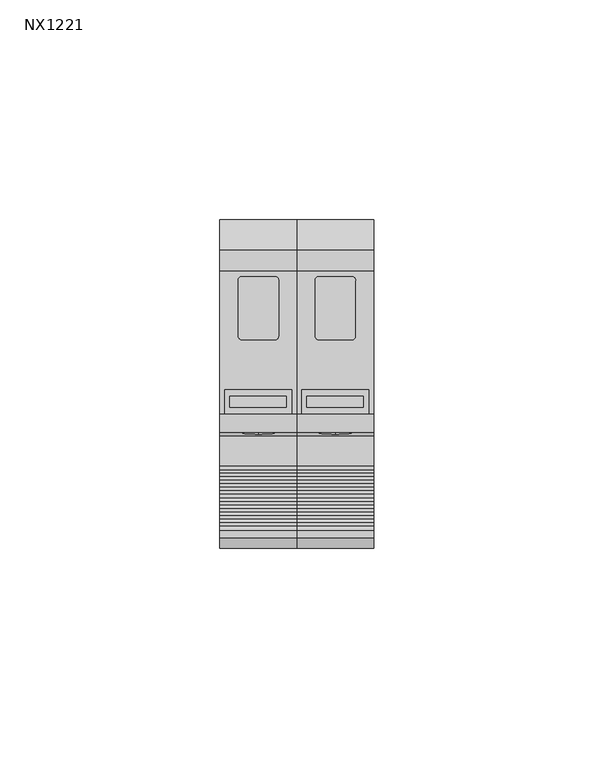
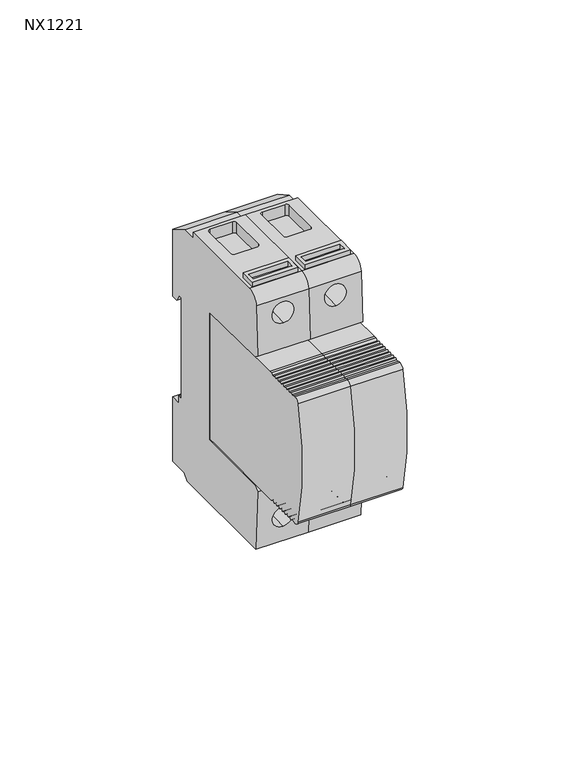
"""IFC4 building model written with IfcOpenShell, lengths in millimetres: proxy geometry, КНС_УЗИП_классI+II_DKC : NX1221."""

from ifc_helpers import new_model, si_unit, point, frame, frame_2d, origin, place, context, project, spatial, polyline, circle_curve, ellipse_curve, trimmed, segment, composite_curve, outline, extrude, source, transform, mapped, element, save
from ifc_brep_helpers import plane_surface, cylinder_surface, revolved_surface, advanced_brep


def nx1221_e5589962(model_context):
    return source(origin(), model_context, "Body", "SolidModel", [
        extrude(outline(polyline([(1.1422597, -33.6922597), (16.3577403, -33.6922597), (16.3577403, -39.0669933), (1.1422597, -39.0669933), (1.1422597, -33.6922597)]), holes=[polyline([(15.147402, -35.102599), (2.251655, -35.102599), (2.2596285, -37.6473987), (15.1473955, -37.6473987), (15.147402, -35.102599)])]), frame((0.0, 0.0, 44.688194), z_axis=(0.0, 0.0, 1.0), x_axis=(1.0, 0.0, 0.0)), (0.0, 0.0, 1.0), 1.65),
        advanced_brep(
        [(17.5, 1.2, 17.438194), (17.5, 2.7207259, 14.938194), (17.5, 5.0, 14.938194), (17.5, 5.0, 38.7044771), (17.5, -1.7972569, 42.6288752), (17.5, -6.7, 42.5860896), (17.5, -6.6806922, 44.688194), (17.5, -39.1559657, 44.688194), (17.5, -43.2612234, 40.8404952), (17.5, -44.1501875, 23.5687496), (17.5, -42.5975423, 22.4685618), (17.5, -16.1999972, 22.2381939), (17.5, -16.1999972, -22.861806), (17.5, -42.5975423, -23.0921739), (17.5, -44.149783, -24.192075), (17.5, -43.0654073, -45.2646007), (17.5, -3.2721098, -45.2646007), (17.5, -1.6937526, -43.2533905), (17.5, 5.0, -43.311806), (17.5, 5.0, -20.561806), (17.5, 1.5, -20.561806), (17.5, 1.5, -18.061806), (17.5, 0.0, -18.061806), (17.5, 0.0, 17.438194), (0.0, 1.2, 17.438194), (0.0, 0.0, 17.438194), (0.0, 0.0, -18.061806), (0.0, 1.5, -18.061806), (0.0, 1.5, -20.561806), (0.0, 5.0, -20.561806), (0.0, 5.0, -43.311806), (0.0, -1.6937526, -43.2533905), (0.0, -3.2721098, -45.2646007), (0.0, -43.0654073, -45.2646007), (0.0, -44.149783, -24.192075), (0.0, -42.5975423, -23.0921739), (0.0, -16.1999972, -22.861806), (0.0, -16.1999972, 22.2381939), (0.0, -42.5975423, 22.4685618), (0.0, -44.1501875, 23.5687496), (0.0, -43.2612234, 40.8404952), (0.0, -39.1559657, 44.688194), (0.0, -6.6806922, 44.688194), (0.0, -6.7, 42.5860896), (0.0, -1.7972569, 42.6288752), (0.0, 5.0, 38.7044771), (0.0, 5.0, 14.938194), (0.0, 2.7207259, 14.938194), (2.251655, -35.102599, 44.688194), (15.147402, -35.102599, 44.688194), (15.1473955, -37.6473987, 44.688194), (2.2596285, -37.6473987, 44.688194), (4.1464467, -8.7059631, 44.688194), (4.9559631, -7.8964466, 44.688194), (12.543988, -7.8964466, 44.688194), (13.3535534, -8.9059631, 44.688194), (13.3535534, -21.4940369, 44.688194), (12.5440369, -22.3035534, 44.688194), (4.9559631, -22.3035534, 44.688194), (4.1464467, -21.2943613, 44.688194), (8.75, -43.7122623, 32.0772292), (8.75, -43.3399564, 39.3107864), (8.75, -43.3425137, -39.8796286), (8.75, -43.7053358, -32.8289577), (15.147402, -35.102599, 40.688194), (2.251655, -35.102599, 40.688194), (2.2596285, -37.6473987, 40.688194), (15.1473955, -37.6473987, 40.688194), (8.75, -32.0563306, 32.6770343), (8.75, -32.241464, 36.2747068), (8.75, -32.4265974, 39.8723793), (8.75, -28.3623348, -39.1087603), (8.75, -28.5437458, -35.5834249), (8.75, -28.7251568, -32.0580894), (4.9559631, -7.8964466, 40.688194), (4.1464467, -8.7059631, 40.688194), (4.1464467, -21.2943613, 40.688194), (4.9559631, -22.3035534, 40.688194), (12.5440369, -22.3035534, 40.688194), (13.3535534, -21.4940369, 40.688194), (13.3535534, -8.9059631, 40.688194), (12.543988, -7.8964466, 40.688194)],
        [
            (0, 1),
            (1, 2),
            (2, 3),
            (3, 4),
            (4, 5),
            (5, 6),
            (6, 7),
            (7, 8, circle_curve(frame((17.5, -39.1559657, 40.574316), z_axis=(1.0, 0.0, 0.0), x_axis=(0.0, -1.0, 0.0)), 4.113878)),
            (8, 9),
            (9, 10),
            (10, 11),
            (11, 12),
            (12, 13),
            (13, 14),
            (14, 15),
            (15, 16),
            (16, 17),
            (17, 18),
            (18, 19),
            (19, 20),
            (20, 21),
            (21, 22),
            (22, 23),
            (23, 0),
            (24, 25),
            (25, 26),
            (26, 27),
            (27, 28),
            (28, 29),
            (29, 30),
            (30, 31),
            (31, 32),
            (32, 33),
            (33, 34),
            (34, 35),
            (35, 36),
            (36, 37),
            (37, 38),
            (38, 39),
            (39, 40),
            (40, 41, circle_curve(frame((0.0, -39.1559657, 40.574316), z_axis=(-1.0, 0.0, 0.0), x_axis=(0.0, -1.0, 0.0)), 4.113878)),
            (41, 42),
            (42, 43),
            (43, 44),
            (44, 45),
            (45, 46),
            (46, 47),
            (47, 24),
            (0, 24),
            (47, 1),
            (46, 2),
            (45, 3),
            (44, 4),
            (43, 5),
            (42, 6),
            (41, 7),
            (48, 49),
            (49, 50),
            (50, 51),
            (51, 48),
            (52, 53, circle_curve(frame((4.9559631, -8.7059631, 44.688194), z_axis=(0.0, 0.0, -1.0), x_axis=(1.0, 0.0, 0.0)), 0.8095165)),
            (53, 54),
            (54, 55, circle_curve(frame((12.543988, -8.7258138, 44.688194), z_axis=(0.0, 0.0, -1.0), x_axis=(1.0, 0.0, 0.0)), 0.8293672)),
            (55, 56),
            (56, 57, circle_curve(frame((12.5440369, -21.4940369, 44.688194), z_axis=(0.0, 0.0, -1.0), x_axis=(1.0, 0.0, 0.0)), 0.8095165)),
            (57, 58),
            (58, 59, circle_curve(frame((5.1802649, -21.2943613, 44.688194), z_axis=(0.0, 0.0, -1.0), x_axis=(1.0, 0.0, 0.0)), 1.0338181)),
            (59, 52),
            (40, 8),
            (39, 9),
            (60, 61, ellipse_curve(frame((8.75, -43.5261093, 35.6940078), z_axis=(0.0, 0.9986780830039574, -0.05140123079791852), x_axis=(0.0, -0.0514012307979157, -0.9986780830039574)), 3.621566, 3.6024328)),
            (61, 60, ellipse_curve(frame((8.75, -43.5261093, 35.6940078), z_axis=(0.0, 0.9986780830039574, -0.05140123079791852), x_axis=(0.0, -0.0514012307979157, -0.9986780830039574)), 3.621566, 3.6024328)),
            (38, 10),
            (37, 11),
            (36, 12),
            (35, 13),
            (34, 14),
            (33, 15),
            (62, 63, circle_curve(frame((8.75, -43.5239247, -36.3542932), z_axis=(0.0, 0.9986785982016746, 0.051391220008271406), x_axis=(0.0, -0.05139122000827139, 0.9986785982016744)), 3.53)),
            (63, 62, circle_curve(frame((8.75, -43.5239247, -36.3542932), z_axis=(0.0, 0.9986785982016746, 0.051391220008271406), x_axis=(0.0, -0.05139122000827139, 0.9986785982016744)), 3.53)),
            (32, 16),
            (31, 17),
            (30, 18),
            (29, 19),
            (28, 20),
            (27, 21),
            (26, 22),
            (25, 23),
            (64, 65),
            (65, 66),
            (66, 67),
            (67, 64),
            (64, 49),
            (48, 65),
            (51, 66),
            (50, 67),
            (68, 69),
            (69, 70),
            (70, 68, circle_curve(frame((8.75, -32.241464, 36.2747068), z_axis=(0.0, -0.9986785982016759, -0.051391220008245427), x_axis=(0.0, -0.05139122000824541, 0.9986785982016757)), 3.6024328)),
            (68, 70, circle_curve(frame((8.75, -32.241464, 36.2747068), z_axis=(0.0, -0.9986785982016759, -0.051391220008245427), x_axis=(0.0, -0.05139122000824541, 0.9986785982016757)), 3.6024328)),
            (70, 61),
            (60, 68),
            (71, 72),
            (72, 73),
            (73, 71, circle_curve(frame((8.75, -28.5437458, -35.5834249), z_axis=(0.0, -0.9986785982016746, -0.051391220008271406), x_axis=(0.0, -0.05139122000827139, 0.9986785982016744)), 3.53)),
            (71, 73, circle_curve(frame((8.75, -28.5437458, -35.5834249), z_axis=(0.0, -0.9986785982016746, -0.051391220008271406), x_axis=(0.0, -0.05139122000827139, 0.9986785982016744)), 3.53)),
            (73, 63),
            (62, 71),
            (74, 75, circle_curve(frame((4.9559631, -8.7059631, 40.688194), z_axis=(0.0, 0.0, 1.0), x_axis=(1.0, 0.0, 0.0)), 0.8095165)),
            (75, 76),
            (76, 77, circle_curve(frame((5.1802649, -21.2943613, 40.688194), z_axis=(0.0, 0.0, 1.0), x_axis=(1.0, 0.0, 0.0)), 1.0338181)),
            (77, 78),
            (78, 79, circle_curve(frame((12.5440369, -21.4940369, 40.688194), z_axis=(0.0, 0.0, 1.0), x_axis=(1.0, 0.0, 0.0)), 0.8095165)),
            (79, 80),
            (80, 81, circle_curve(frame((12.543988, -8.7258138, 40.688194), z_axis=(0.0, 0.0, 1.0), x_axis=(1.0, 0.0, 0.0)), 0.8293672)),
            (81, 74),
            (74, 53),
            (52, 75),
            (59, 76),
            (58, 77),
            (57, 78),
            (56, 79),
            (55, 80),
            (54, 81),
        ],
        [
            plane_surface(frame((17.5, 1.2, 17.438194), z_axis=(1.0, 0.0, 0.0), x_axis=(0.0, 0.5196942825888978, -0.8543523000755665))),
            plane_surface(frame((0.0, 1.2, 17.438194), z_axis=(-1.0, 0.0, 0.0), x_axis=(0.0, -0.5196942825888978, 0.8543523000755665))),
            plane_surface(frame((17.5, 1.2, 17.438194), z_axis=(0.0, -0.8543523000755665, -0.5196942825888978), x_axis=(-1.0, 0.0, 0.0))),
            plane_surface(frame((17.5, 2.7207259, 14.938194), z_axis=(0.0, 0.0, -1.0), x_axis=(-1.0, 0.0, 0.0))),
            plane_surface(frame((17.5, 5.0, 14.938194), z_axis=(0.0, 1.0, 0.0), x_axis=(-1.0, 0.0, 0.0))),
            plane_surface(frame((17.5, 5.0, 38.7044771), z_axis=(0.0, 0.49999999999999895, 0.8660254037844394), x_axis=(-1.0, 0.0, 0.0))),
            plane_surface(frame((17.5, -1.7972569, 42.6288752), z_axis=(0.0, -0.008726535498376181, 0.9999619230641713), x_axis=(-1.0, 0.0, 0.0))),
            plane_surface(frame((17.5, -6.7, 42.5860896), z_axis=(0.0, 0.9999578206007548, -0.009184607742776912), x_axis=(-1.0, 0.0, 0.0))),
            plane_surface(frame((17.5, -6.6806922, 44.688194), z_axis=(0.0, 0.0, 1.0), x_axis=(-1.0, 0.0, 0.0))),
            cylinder_surface(frame((0.0, -39.1559657, 40.574316), z_axis=(1.0, 0.0, 0.0), x_axis=(0.0, -1.0, 0.0)), 4.113878),
            plane_surface(frame((17.5, -43.2612234, 40.8404952), z_axis=(0.0, -0.9986780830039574, 0.05140123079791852), x_axis=(-1.0, 0.0, 0.0))),
            plane_surface(frame((17.5, -44.1501875, 23.5687496), z_axis=(0.0, -0.5781564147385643, -0.8159259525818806), x_axis=(-1.0, 0.0, 0.0))),
            plane_surface(frame((17.5, -42.5975423, 22.4685618), z_axis=(0.0, -0.00872653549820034, -0.9999619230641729), x_axis=(-1.0, 0.0, 0.0))),
            plane_surface(frame((17.5, -16.1999972, 22.2381939), z_axis=(0.0, -1.0, 0.0), x_axis=(-1.0, 0.0, 0.0))),
            plane_surface(frame((17.5, -16.1999972, -22.861806), z_axis=(0.0, -0.008726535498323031, 0.9999619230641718), x_axis=(-1.0, 0.0, 0.0))),
            plane_surface(frame((17.5, -42.5975423, -23.0921739), z_axis=(0.0, -0.5781564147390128, 0.8159259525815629), x_axis=(-1.0, 0.0, 0.0))),
            plane_surface(frame((17.5, -44.149783, -24.192075), z_axis=(0.0, -0.9986785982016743, -0.05139122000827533), x_axis=(-1.0, 0.0, 0.0))),
            plane_surface(frame((17.5, -43.0654073, -45.2646007), z_axis=(0.0, 0.0, -1.0), x_axis=(-1.0, 0.0, 0.0))),
            plane_surface(frame((17.5, -3.2721098, -45.2646007), z_axis=(0.0, 0.7866753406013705, -0.6173669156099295), x_axis=(-1.0, 0.0, 0.0))),
            plane_surface(frame((17.5, -1.6937526, -43.2533905), z_axis=(0.0, -0.008726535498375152, -0.9999619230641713), x_axis=(-1.0, 0.0, 0.0))),
            plane_surface(frame((17.5, 5.0, -43.311806), z_axis=(0.0, 1.0, 0.0), x_axis=(-1.0, 0.0, 0.0))),
            plane_surface(frame((17.5, 5.0, -20.561806), z_axis=(0.0, 0.0, 1.0), x_axis=(-1.0, 0.0, 0.0))),
            plane_surface(frame((17.5, 1.5, -20.561806), z_axis=(0.0, 1.0, 0.0), x_axis=(-1.0, 0.0, 0.0))),
            plane_surface(frame((17.5, 1.5, -18.061806), z_axis=(0.0, 0.0, 1.0), x_axis=(-1.0, 0.0, 0.0))),
            plane_surface(frame((17.5, 0.0, -18.061806), z_axis=(0.0, 1.0, 0.0), x_axis=(-1.0, 0.0, 0.0))),
            plane_surface(frame((17.5, 0.0, 17.438194), z_axis=(0.0, 0.0, -1.0), x_axis=(-1.0, 0.0, 0.0))),
            plane_surface(frame((2.5525837, -35.102599, 40.688194), z_axis=(0.0, 0.0, 1.0), x_axis=(1.0, 0.0, 0.0))),
            plane_surface(frame((15.147402, -35.102599, 51.9501742), z_axis=(0.0, -1.0, 0.0), x_axis=(0.0, 0.0, -1.0))),
            plane_surface(frame((2.251655, -35.102599, 51.9501742), z_axis=(0.9999950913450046, 0.003133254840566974, 0.0), x_axis=(0.0, 0.0, -1.0))),
            plane_surface(frame((2.2596285, -37.6473987, 51.9501742), z_axis=(0.0, 1.0, 0.0), x_axis=(0.0, 0.0, -1.0))),
            plane_surface(frame((15.1473955, -37.6473987, 51.9501742), z_axis=(-0.9999999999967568, 2.546850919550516e-06, 0.0), x_axis=(0.0, 0.0, -1.0))),
            plane_surface(frame((8.75, -32.241464, 36.2747068), z_axis=(0.0, -0.9986785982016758, -0.05139122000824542), x_axis=(0.0, -0.05139122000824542, 0.9986785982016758))),
            revolved_surface(polyline([(8.75, -44.082529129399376, 39.27257420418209), (8.75, -32.42659740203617, 39.872379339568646)]), (8.75, -32.241464, 36.2747068), (0.0, -0.9986785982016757, -0.05139122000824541)),
            plane_surface(frame((8.75, -28.5437458, -35.5834249), z_axis=(0.0, -0.9986785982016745, -0.0513912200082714), x_axis=(0.0, -0.0513912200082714, 0.9986785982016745))),
            revolved_surface(polyline([(8.75, -43.70533579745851, -32.828957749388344), (8.75, -28.725156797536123, -32.058089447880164)]), (8.75, -28.5437458, -35.5834249), (0.0, -0.9986785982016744, -0.05139122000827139)),
            plane_surface(frame((5.7654796, -8.7059631, 40.688194), z_axis=(0.0, 0.0, 1.0), x_axis=(0.0, -1.0, 0.0))),
            revolved_surface(polyline([(5.7654796, -8.7059631, 44.688194), (5.7654796, -8.7059631, 40.688194)]), (4.9559631, -8.7059631, 40.688194), (0.0, 0.0, 1.0)),
            plane_surface(frame((4.1464467, -8.7059631, 44.688194), z_axis=(1.0, 0.0, 0.0), x_axis=(0.0, 0.0, -1.0))),
            revolved_surface(polyline([(6.2140830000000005, -21.2943613, 44.688194), (6.2140830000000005, -21.2943613, 40.688194)]), (5.1802649, -21.2943613, 40.688194), (0.0, 0.0, 1.0)),
            plane_surface(frame((4.9559631, -22.3035534, 44.688194), z_axis=(0.0, 1.0, 0.0), x_axis=(0.0, 0.0, -1.0))),
            revolved_surface(polyline([(13.3535534, -21.4940369, 44.688194), (13.3535534, -21.4940369, 40.688194)]), (12.5440369, -21.4940369, 40.688194), (0.0, 0.0, 1.0)),
            plane_surface(frame((13.3535534, -21.4940369, 44.688194), z_axis=(-1.0, 0.0, 0.0), x_axis=(0.0, 0.0, -1.0))),
            revolved_surface(polyline([(13.3733552, -8.7258138, 44.688194), (13.3733552, -8.7258138, 40.688194)]), (12.543988, -8.7258138, 40.688194), (0.0, 0.0, 1.0)),
            plane_surface(frame((12.543988, -7.8964466, 44.688194), z_axis=(1.8937241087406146e-10, -1.0, 0.0), x_axis=(0.0, 0.0, -1.0))),
        ],
        [
            (0, [[1, 2, 3, 4, 5, 6, 7, 8, 9, 10, 11, 12, 13, 14, 15, 16, 17, 18, 19, 20, 21, 22, 23, 24]]),
            (1, [[25, 26, 27, 28, 29, 30, 31, 32, 33, 34, 35, 36, 37, 38, 39, 40, 41, 42, 43, 44, 45, 46, 47, 48]]),
            (2, [[-1, 49, -48, 50]]),
            (3, [[-2, -50, -47, 51]]),
            (4, [[-3, -51, -46, 52]]),
            (5, [[-4, -52, -45, 53]]),
            (6, [[-5, -53, -44, 54]]),
            (7, [[-6, -54, -43, 55]]),
            (8, [[-7, -55, -42, 56], [57, 58, 59, 60], [61, 62, 63, 64, 65, 66, 67, 68]]),
            (9, [[-8, -56, -41, 69]]),
            (10, [[-9, -69, -40, 70], [71, 72]]),
            (11, [[-10, -70, -39, 73]]),
            (12, [[-11, -73, -38, 74]]),
            (13, [[-12, -74, -37, 75]]),
            (14, [[-13, -75, -36, 76]]),
            (15, [[-14, -76, -35, 77]]),
            (16, [[-15, -77, -34, 78], [79, 80]]),
            (17, [[-16, -78, -33, 81]]),
            (18, [[-17, -81, -32, 82]]),
            (19, [[-18, -82, -31, 83]]),
            (20, [[-19, -83, -30, 84]]),
            (21, [[-20, -84, -29, 85]]),
            (22, [[-21, -85, -28, 86]]),
            (23, [[-22, -86, -27, 87]]),
            (24, [[-23, -87, -26, 88]]),
            (25, [[-24, -88, -25, -49]]),
            (26, [[89, 90, 91, 92]]),
            (27, [[-89, 93, -57, 94]]),
            (28, [[-90, -94, -60, 95]]),
            (29, [[-91, -95, -59, 96]]),
            (30, [[-92, -96, -58, -93]]),
            (31, [[97, 98, 99]]),
            (31, [[-97, 100, -98]]),
            (32, [[-99, 101, -71, 102]]),
            (32, [[-100, -102, -72, -101]]),
            (33, [[103, 104, 105]]),
            (33, [[-103, 106, -104]]),
            (34, [[-105, 107, -79, 108]]),
            (34, [[-106, -108, -80, -107]]),
            (35, [[109, 110, 111, 112, 113, 114, 115, 116]]),
            (36, [[-109, 117, -61, 118]]),
            (37, [[-110, -118, -68, 119]]),
            (38, [[-111, -119, -67, 120]]),
            (39, [[-112, -120, -66, 121]]),
            (40, [[-113, -121, -65, 122]]),
            (41, [[-114, -122, -64, 123]]),
            (42, [[-115, -123, -63, 124]]),
            (43, [[-116, -124, -62, -117]]),
        ],
    ),
        extrude(outline(composite_curve([segment(polyline([(-20.9549972, 22.238194), (-16.1999972, 22.238194), (-16.1999972, -22.238194), (-20.9549972, -22.238194), (-50.9549972, -22.5), (-51.8409232, -22.5)]), True, "CONTINUOUS"), segment(trimmed(circle_curve(frame_2d((-51.8159676, -21.704458)), 0.7959333), [point((-51.8409232, -22.5))], [point((-52.5549972, -22.0))], False, "CARTESIAN"), True, "CONTINUOUS"), segment(polyline([(-52.5549972, -22.0), (-53.3549972, -22.0)]), True, "CONTINUOUS"), segment(trimmed(circle_curve(frame_2d((-53.7549972, -22.0)), 0.4), [point((-53.3549972, -22.0))], [point((-54.1549972, -22.0))], False, "CARTESIAN"), True, "CONTINUOUS"), segment(polyline([(-54.1549972, -22.0), (-54.9549972, -22.0)]), True, "CONTINUOUS"), segment(trimmed(circle_curve(frame_2d((-55.3549972, -22.0)), 0.4), [point((-54.9549972, -22.0))], [point((-55.7549972, -22.0))], False, "CARTESIAN"), True, "CONTINUOUS"), segment(polyline([(-55.7549972, -22.0), (-56.5549972, -22.0)]), True, "CONTINUOUS"), segment(trimmed(circle_curve(frame_2d((-56.9549972, -22.0)), 0.4), [point((-56.5549972, -22.0))], [point((-57.3549972, -22.0))], False, "CARTESIAN"), True, "CONTINUOUS"), segment(polyline([(-57.3549972, -22.0), (-58.1549972, -22.0)]), True, "CONTINUOUS"), segment(trimmed(circle_curve(frame_2d((-58.5549972, -22.0)), 0.4), [point((-58.1549972, -22.0))], [point((-58.9549972, -22.0))], False, "CARTESIAN"), True, "CONTINUOUS"), segment(polyline([(-58.9549972, -22.0), (-59.7549972, -22.0)]), True, "CONTINUOUS"), segment(trimmed(circle_curve(frame_2d((-60.1549972, -22.0)), 0.4), [point((-59.7549972, -22.0))], [point((-60.5549972, -22.0))], False, "CARTESIAN"), True, "CONTINUOUS"), segment(polyline([(-60.5549972, -22.0), (-61.3549972, -22.0)]), True, "CONTINUOUS"), segment(trimmed(circle_curve(frame_2d((-61.7549972, -22.0)), 0.4), [point((-61.3549972, -22.0))], [point((-62.1549972, -22.0))], False, "CARTESIAN"), True, "CONTINUOUS"), segment(polyline([(-62.1549972, -22.0), (-62.9549972, -22.0)]), True, "CONTINUOUS"), segment(trimmed(circle_curve(frame_2d((-63.3549972, -22.0)), 0.4), [point((-62.9549972, -22.0))], [point((-63.7549972, -22.0))], False, "CARTESIAN"), True, "CONTINUOUS"), segment(polyline([(-63.7549972, -22.0), (-64.5549972, -22.0)]), True, "CONTINUOUS"), segment(trimmed(circle_curve(frame_2d((-65.6169646, -20.2703757)), 2.0296243), [point((-64.5549972, -22.0))], [point((-65.6169646, -22.3))], False, "CARTESIAN"), True, "CONTINUOUS"), segment(trimmed(circle_curve(frame_2d((-65.6408544, -20.5391615)), 1.7610005), [point((-65.6169646, -22.3))], [point((-67.3551679, -20.9419667))], False, "CARTESIAN"), True, "CONTINUOUS"), segment(trimmed(circle_curve(frame_2d((15.9165985, 0.0)), 85.8647369), [point((-67.3551679, -20.9419667))], [point((-67.3551679, 20.9419667))], False, "CARTESIAN"), True, "CONTINUOUS"), segment(trimmed(circle_curve(frame_2d((-65.6408544, 20.5391615)), 1.7610005), [point((-67.3551679, 20.9419667))], [point((-65.6169646, 22.3))], False, "CARTESIAN"), True, "CONTINUOUS"), segment(trimmed(circle_curve(frame_2d((-65.6169646, 20.2703757)), 2.0296243), [point((-65.6169646, 22.3))], [point((-64.5549972, 22.0))], False, "CARTESIAN"), True, "CONTINUOUS"), segment(polyline([(-64.5549972, 22.0), (-63.7549972, 22.0)]), True, "CONTINUOUS"), segment(trimmed(circle_curve(frame_2d((-63.3549972, 22.0)), 0.4), [point((-63.7549972, 22.0))], [point((-62.9549972, 22.0))], False, "CARTESIAN"), True, "CONTINUOUS"), segment(polyline([(-62.9549972, 22.0), (-62.1549972, 22.0)]), True, "CONTINUOUS"), segment(trimmed(circle_curve(frame_2d((-61.7549972, 22.0)), 0.4), [point((-62.1549972, 22.0))], [point((-61.3549972, 22.0))], False, "CARTESIAN"), True, "CONTINUOUS"), segment(polyline([(-61.3549972, 22.0), (-60.5549972, 22.0)]), True, "CONTINUOUS"), segment(trimmed(circle_curve(frame_2d((-60.1549972, 22.0)), 0.4), [point((-60.5549972, 22.0))], [point((-59.7549972, 22.0))], False, "CARTESIAN"), True, "CONTINUOUS"), segment(polyline([(-59.7549972, 22.0), (-58.9549972, 22.0)]), True, "CONTINUOUS"), segment(trimmed(circle_curve(frame_2d((-58.5549972, 22.0)), 0.4), [point((-58.9549972, 22.0))], [point((-58.1549972, 22.0))], False, "CARTESIAN"), True, "CONTINUOUS"), segment(polyline([(-58.1549972, 22.0), (-57.3549972, 22.0)]), True, "CONTINUOUS"), segment(trimmed(circle_curve(frame_2d((-56.9549972, 22.0)), 0.4), [point((-57.3549972, 22.0))], [point((-56.5549972, 22.0))], False, "CARTESIAN"), True, "CONTINUOUS"), segment(polyline([(-56.5549972, 22.0), (-55.7549972, 22.0)]), True, "CONTINUOUS"), segment(trimmed(circle_curve(frame_2d((-55.3549972, 22.0)), 0.4), [point((-55.7549972, 22.0))], [point((-54.9549972, 22.0))], False, "CARTESIAN"), True, "CONTINUOUS"), segment(polyline([(-54.9549972, 22.0), (-54.1549972, 22.0)]), True, "CONTINUOUS"), segment(trimmed(circle_curve(frame_2d((-53.7549972, 22.0)), 0.4), [point((-54.1549972, 22.0))], [point((-53.3549972, 22.0))], False, "CARTESIAN"), True, "CONTINUOUS"), segment(polyline([(-53.3549972, 22.0), (-52.5549972, 22.0)]), True, "CONTINUOUS"), segment(trimmed(circle_curve(frame_2d((-51.8159676, 21.704458)), 0.7959333), [point((-52.5549972, 22.0))], [point((-51.8409232, 22.5))], False, "CARTESIAN"), True, "CONTINUOUS"), segment(polyline([(-51.8409232, 22.5), (-50.9549972, 22.5), (-20.9549972, 22.238194)]), True, "CONTINUOUS")], self_intersect=False)), frame((0.0, 0.0, 0.0), z_axis=(1.0, 0.0, 0.0), x_axis=(0.0, 1.0, 0.0)), (0.0, 0.0, 1.0), 17.5),
        extrude(outline(polyline([(18.6422597, -33.6922597), (33.8577403, -33.6922597), (33.8577403, -39.0669933), (18.6422597, -39.0669933), (18.6422597, -33.6922597)]), holes=[polyline([(32.647402, -35.102599), (19.751655, -35.102599), (19.7596285, -37.6473987), (32.6473955, -37.6473987), (32.647402, -35.102599)])]), frame((0.0, 0.0, 44.688194), z_axis=(0.0, 0.0, 1.0), x_axis=(1.0, 0.0, 0.0)), (0.0, 0.0, 1.0), 1.65),
        advanced_brep(
        [(35.0, 1.2, 17.438194), (35.0, 2.7207259, 14.938194), (35.0, 5.0, 14.938194), (35.0, 5.0, 38.7044771), (35.0, -1.7972569, 42.6288752), (35.0, -6.7, 42.5860896), (35.0, -6.6806922, 44.688194), (35.0, -39.1559657, 44.688194), (35.0, -43.2612234, 40.8404952), (35.0, -44.1501875, 23.5687496), (35.0, -42.5975423, 22.4685618), (35.0, -16.1999972, 22.2381939), (35.0, -16.1999972, -22.861806), (35.0, -42.5975423, -23.0921739), (35.0, -44.149783, -24.192075), (35.0, -43.0654073, -45.2646007), (35.0, -3.2721098, -45.2646007), (35.0, -1.6937526, -43.2533905), (35.0, 5.0, -43.311806), (35.0, 5.0, -20.561806), (35.0, 1.5, -20.561806), (35.0, 1.5, -18.061806), (35.0, 0.0, -18.061806), (35.0, 0.0, 17.438194), (17.5, 1.2, 17.438194), (17.5, 0.0, 17.438194), (17.5, 0.0, -18.061806), (17.5, 1.5, -18.061806), (17.5, 1.5, -20.561806), (17.5, 5.0, -20.561806), (17.5, 5.0, -43.311806), (17.5, -1.6937526, -43.2533905), (17.5, -3.2721098, -45.2646007), (17.5, -43.0654073, -45.2646007), (17.5, -44.149783, -24.192075), (17.5, -42.5975423, -23.0921739), (17.5, -16.1999972, -22.861806), (17.5, -16.1999972, 22.2381939), (17.5, -42.5975423, 22.4685618), (17.5, -44.1501875, 23.5687496), (17.5, -43.2612234, 40.8404952), (17.5, -39.1559657, 44.688194), (17.5, -6.6806922, 44.688194), (17.5, -6.7, 42.5860896), (17.5, -1.7972569, 42.6288752), (17.5, 5.0, 38.7044771), (17.5, 5.0, 14.938194), (17.5, 2.7207259, 14.938194), (19.751655, -35.102599, 44.688194), (32.647402, -35.102599, 44.688194), (32.6473955, -37.6473987, 44.688194), (19.7596285, -37.6473987, 44.688194), (21.6464467, -8.7059631, 44.688194), (22.4559631, -7.8964466, 44.688194), (30.043988, -7.8964466, 44.688194), (30.8535534, -8.9059631, 44.688194), (30.8535534, -21.4940369, 44.688194), (30.0440369, -22.3035534, 44.688194), (22.4559631, -22.3035534, 44.688194), (21.6464467, -21.2943613, 44.688194), (26.25, -43.7122623, 32.0772292), (26.25, -43.3399564, 39.3107864), (26.25, -43.3425137, -39.8796286), (26.25, -43.7053358, -32.8289577), (32.647402, -35.102599, 40.688194), (19.751655, -35.102599, 40.688194), (19.7596285, -37.6473987, 40.688194), (32.6473955, -37.6473987, 40.688194), (26.25, -32.0563306, 32.6770343), (26.25, -32.241464, 36.2747068), (26.25, -32.4265974, 39.8723793), (26.25, -28.3623348, -39.1087603), (26.25, -28.5437458, -35.5834249), (26.25, -28.7251568, -32.0580894), (22.4559631, -7.8964466, 40.688194), (21.6464467, -8.7059631, 40.688194), (21.6464467, -21.2943613, 40.688194), (22.4559631, -22.3035534, 40.688194), (30.0440369, -22.3035534, 40.688194), (30.8535534, -21.4940369, 40.688194), (30.8535534, -8.9059631, 40.688194), (30.043988, -7.8964466, 40.688194)],
        [
            (0, 1),
            (1, 2),
            (2, 3),
            (3, 4),
            (4, 5),
            (5, 6),
            (6, 7),
            (7, 8, circle_curve(frame((35.0, -39.1559657, 40.574316), z_axis=(1.0, 0.0, 0.0), x_axis=(0.0, -1.0, 0.0)), 4.113878)),
            (8, 9),
            (9, 10),
            (10, 11),
            (11, 12),
            (12, 13),
            (13, 14),
            (14, 15),
            (15, 16),
            (16, 17),
            (17, 18),
            (18, 19),
            (19, 20),
            (20, 21),
            (21, 22),
            (22, 23),
            (23, 0),
            (24, 25),
            (25, 26),
            (26, 27),
            (27, 28),
            (28, 29),
            (29, 30),
            (30, 31),
            (31, 32),
            (32, 33),
            (33, 34),
            (34, 35),
            (35, 36),
            (36, 37),
            (37, 38),
            (38, 39),
            (39, 40),
            (40, 41, circle_curve(frame((17.5, -39.1559657, 40.574316), z_axis=(-1.0, 0.0, 0.0), x_axis=(0.0, -1.0, 0.0)), 4.113878)),
            (41, 42),
            (42, 43),
            (43, 44),
            (44, 45),
            (45, 46),
            (46, 47),
            (47, 24),
            (0, 24),
            (47, 1),
            (46, 2),
            (45, 3),
            (44, 4),
            (43, 5),
            (42, 6),
            (41, 7),
            (48, 49),
            (49, 50),
            (50, 51),
            (51, 48),
            (52, 53, circle_curve(frame((22.4559631, -8.7059631, 44.688194), z_axis=(0.0, 0.0, -1.0), x_axis=(1.0, 0.0, 0.0)), 0.8095165)),
            (53, 54),
            (54, 55, circle_curve(frame((30.043988, -8.7258138, 44.688194), z_axis=(0.0, 0.0, -1.0), x_axis=(1.0, 0.0, 0.0)), 0.8293672)),
            (55, 56),
            (56, 57, circle_curve(frame((30.0440369, -21.4940369, 44.688194), z_axis=(0.0, 0.0, -1.0), x_axis=(1.0, 0.0, 0.0)), 0.8095165)),
            (57, 58),
            (58, 59, circle_curve(frame((22.6802649, -21.2943613, 44.688194), z_axis=(0.0, 0.0, -1.0), x_axis=(1.0, 0.0, 0.0)), 1.0338181)),
            (59, 52),
            (40, 8),
            (39, 9),
            (60, 61, ellipse_curve(frame((26.25, -43.5261093, 35.6940078), z_axis=(0.0, 0.9986780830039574, -0.05140123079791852), x_axis=(0.0, -0.0514012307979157, -0.9986780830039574)), 3.621566, 3.6024328)),
            (61, 60, ellipse_curve(frame((26.25, -43.5261093, 35.6940078), z_axis=(0.0, 0.9986780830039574, -0.05140123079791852), x_axis=(0.0, -0.0514012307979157, -0.9986780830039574)), 3.621566, 3.6024328)),
            (38, 10),
            (37, 11),
            (36, 12),
            (35, 13),
            (34, 14),
            (33, 15),
            (62, 63, circle_curve(frame((26.25, -43.5239247, -36.3542932), z_axis=(0.0, 0.9986785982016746, 0.051391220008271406), x_axis=(0.0, -0.05139122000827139, 0.9986785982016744)), 3.53)),
            (63, 62, circle_curve(frame((26.25, -43.5239247, -36.3542932), z_axis=(0.0, 0.9986785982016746, 0.051391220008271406), x_axis=(0.0, -0.05139122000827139, 0.9986785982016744)), 3.53)),
            (32, 16),
            (31, 17),
            (30, 18),
            (29, 19),
            (28, 20),
            (27, 21),
            (26, 22),
            (25, 23),
            (64, 65),
            (65, 66),
            (66, 67),
            (67, 64),
            (64, 49),
            (48, 65),
            (51, 66),
            (50, 67),
            (68, 69),
            (69, 70),
            (70, 68, circle_curve(frame((26.25, -32.241464, 36.2747068), z_axis=(0.0, -0.9986785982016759, -0.051391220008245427), x_axis=(0.0, -0.05139122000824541, 0.9986785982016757)), 3.6024328)),
            (68, 70, circle_curve(frame((26.25, -32.241464, 36.2747068), z_axis=(0.0, -0.9986785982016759, -0.051391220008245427), x_axis=(0.0, -0.05139122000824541, 0.9986785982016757)), 3.6024328)),
            (70, 61),
            (60, 68),
            (71, 72),
            (72, 73),
            (73, 71, circle_curve(frame((26.25, -28.5437458, -35.5834249), z_axis=(0.0, -0.9986785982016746, -0.051391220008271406), x_axis=(0.0, -0.05139122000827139, 0.9986785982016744)), 3.53)),
            (71, 73, circle_curve(frame((26.25, -28.5437458, -35.5834249), z_axis=(0.0, -0.9986785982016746, -0.051391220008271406), x_axis=(0.0, -0.05139122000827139, 0.9986785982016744)), 3.53)),
            (73, 63),
            (62, 71),
            (74, 75, circle_curve(frame((22.4559631, -8.7059631, 40.688194), z_axis=(0.0, 0.0, 1.0), x_axis=(1.0, 0.0, 0.0)), 0.8095165)),
            (75, 76),
            (76, 77, circle_curve(frame((22.6802649, -21.2943613, 40.688194), z_axis=(0.0, 0.0, 1.0), x_axis=(1.0, 0.0, 0.0)), 1.0338181)),
            (77, 78),
            (78, 79, circle_curve(frame((30.0440369, -21.4940369, 40.688194), z_axis=(0.0, 0.0, 1.0), x_axis=(1.0, 0.0, 0.0)), 0.8095165)),
            (79, 80),
            (80, 81, circle_curve(frame((30.043988, -8.7258138, 40.688194), z_axis=(0.0, 0.0, 1.0), x_axis=(1.0, 0.0, 0.0)), 0.8293672)),
            (81, 74),
            (74, 53),
            (52, 75),
            (59, 76),
            (58, 77),
            (57, 78),
            (56, 79),
            (55, 80),
            (54, 81),
        ],
        [
            plane_surface(frame((35.0, 1.2, 17.438194), z_axis=(1.0, 0.0, 0.0), x_axis=(0.0, 0.5196942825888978, -0.8543523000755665))),
            plane_surface(frame((17.5, 1.2, 17.438194), z_axis=(-1.0, 0.0, 0.0), x_axis=(0.0, -0.5196942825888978, 0.8543523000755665))),
            plane_surface(frame((35.0, 1.2, 17.438194), z_axis=(0.0, -0.8543523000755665, -0.5196942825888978), x_axis=(-1.0, 0.0, 0.0))),
            plane_surface(frame((35.0, 2.7207259, 14.938194), z_axis=(0.0, 0.0, -1.0), x_axis=(-1.0, 0.0, 0.0))),
            plane_surface(frame((35.0, 5.0, 14.938194), z_axis=(0.0, 1.0, 0.0), x_axis=(-1.0, 0.0, 0.0))),
            plane_surface(frame((35.0, 5.0, 38.7044771), z_axis=(0.0, 0.49999999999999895, 0.8660254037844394), x_axis=(-1.0, 0.0, 0.0))),
            plane_surface(frame((35.0, -1.7972569, 42.6288752), z_axis=(0.0, -0.008726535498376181, 0.9999619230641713), x_axis=(-1.0, 0.0, 0.0))),
            plane_surface(frame((35.0, -6.7, 42.5860896), z_axis=(0.0, 0.9999578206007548, -0.009184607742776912), x_axis=(-1.0, 0.0, 0.0))),
            plane_surface(frame((35.0, -6.6806922, 44.688194), z_axis=(0.0, 0.0, 1.0), x_axis=(-1.0, 0.0, 0.0))),
            cylinder_surface(frame((17.5, -39.1559657, 40.574316), z_axis=(1.0, 0.0, 0.0), x_axis=(0.0, -1.0, 0.0)), 4.113878),
            plane_surface(frame((35.0, -43.2612234, 40.8404952), z_axis=(0.0, -0.9986780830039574, 0.05140123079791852), x_axis=(-1.0, 0.0, 0.0))),
            plane_surface(frame((35.0, -44.1501875, 23.5687496), z_axis=(0.0, -0.5781564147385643, -0.8159259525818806), x_axis=(-1.0, 0.0, 0.0))),
            plane_surface(frame((35.0, -42.5975423, 22.4685618), z_axis=(0.0, -0.00872653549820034, -0.9999619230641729), x_axis=(-1.0, 0.0, 0.0))),
            plane_surface(frame((35.0, -16.1999972, 22.2381939), z_axis=(0.0, -1.0, 0.0), x_axis=(-1.0, 0.0, 0.0))),
            plane_surface(frame((35.0, -16.1999972, -22.861806), z_axis=(0.0, -0.008726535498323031, 0.9999619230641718), x_axis=(-1.0, 0.0, 0.0))),
            plane_surface(frame((35.0, -42.5975423, -23.0921739), z_axis=(0.0, -0.5781564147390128, 0.8159259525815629), x_axis=(-1.0, 0.0, 0.0))),
            plane_surface(frame((35.0, -44.149783, -24.192075), z_axis=(0.0, -0.9986785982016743, -0.05139122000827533), x_axis=(-1.0, 0.0, 0.0))),
            plane_surface(frame((35.0, -43.0654073, -45.2646007), z_axis=(0.0, 0.0, -1.0), x_axis=(-1.0, 0.0, 0.0))),
            plane_surface(frame((35.0, -3.2721098, -45.2646007), z_axis=(0.0, 0.7866753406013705, -0.6173669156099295), x_axis=(-1.0, 0.0, 0.0))),
            plane_surface(frame((35.0, -1.6937526, -43.2533905), z_axis=(0.0, -0.008726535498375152, -0.9999619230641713), x_axis=(-1.0, 0.0, 0.0))),
            plane_surface(frame((35.0, 5.0, -43.311806), z_axis=(0.0, 1.0, 0.0), x_axis=(-1.0, 0.0, 0.0))),
            plane_surface(frame((35.0, 5.0, -20.561806), z_axis=(0.0, 0.0, 1.0), x_axis=(-1.0, 0.0, 0.0))),
            plane_surface(frame((35.0, 1.5, -20.561806), z_axis=(0.0, 1.0, 0.0), x_axis=(-1.0, 0.0, 0.0))),
            plane_surface(frame((35.0, 1.5, -18.061806), z_axis=(0.0, 0.0, 1.0), x_axis=(-1.0, 0.0, 0.0))),
            plane_surface(frame((35.0, 0.0, -18.061806), z_axis=(0.0, 1.0, 0.0), x_axis=(-1.0, 0.0, 0.0))),
            plane_surface(frame((35.0, 0.0, 17.438194), z_axis=(0.0, 0.0, -1.0), x_axis=(-1.0, 0.0, 0.0))),
            plane_surface(frame((20.0525837, -35.102599, 40.688194), z_axis=(0.0, 0.0, 1.0), x_axis=(1.0, 0.0, 0.0))),
            plane_surface(frame((32.647402, -35.102599, 51.9501742), z_axis=(0.0, -1.0, 0.0), x_axis=(0.0, 0.0, -1.0))),
            plane_surface(frame((19.751655, -35.102599, 51.9501742), z_axis=(0.9999950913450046, 0.003133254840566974, 0.0), x_axis=(0.0, 0.0, -1.0))),
            plane_surface(frame((19.7596285, -37.6473987, 51.9501742), z_axis=(0.0, 1.0, 0.0), x_axis=(0.0, 0.0, -1.0))),
            plane_surface(frame((32.6473955, -37.6473987, 51.9501742), z_axis=(-0.9999999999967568, 2.546850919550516e-06, 0.0), x_axis=(0.0, 0.0, -1.0))),
            plane_surface(frame((26.25, -32.241464, 36.2747068), z_axis=(0.0, -0.9986785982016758, -0.05139122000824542), x_axis=(0.0, -0.05139122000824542, 0.9986785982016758))),
            revolved_surface(polyline([(26.25, -44.082529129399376, 39.27257420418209), (26.25, -32.42659740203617, 39.872379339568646)]), (26.25, -32.241464, 36.2747068), (0.0, -0.9986785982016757, -0.05139122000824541)),
            plane_surface(frame((26.25, -28.5437458, -35.5834249), z_axis=(0.0, -0.9986785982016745, -0.0513912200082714), x_axis=(0.0, -0.0513912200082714, 0.9986785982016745))),
            revolved_surface(polyline([(26.25, -43.70533579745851, -32.828957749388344), (26.25, -28.725156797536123, -32.058089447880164)]), (26.25, -28.5437458, -35.5834249), (0.0, -0.9986785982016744, -0.05139122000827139)),
            plane_surface(frame((23.2654796, -8.7059631, 40.688194), z_axis=(0.0, 0.0, 1.0), x_axis=(0.0, -1.0, 0.0))),
            revolved_surface(polyline([(23.265479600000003, -8.7059631, 44.688194), (23.265479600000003, -8.7059631, 40.688194)]), (22.4559631, -8.7059631, 40.688194), (0.0, 0.0, 1.0)),
            plane_surface(frame((21.6464467, -8.7059631, 44.688194), z_axis=(1.0, 0.0, 0.0), x_axis=(0.0, 0.0, -1.0))),
            revolved_surface(polyline([(23.714083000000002, -21.2943613, 44.688194), (23.714083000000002, -21.2943613, 40.688194)]), (22.6802649, -21.2943613, 40.688194), (0.0, 0.0, 1.0)),
            plane_surface(frame((22.4559631, -22.3035534, 44.688194), z_axis=(0.0, 1.0, 0.0), x_axis=(0.0, 0.0, -1.0))),
            revolved_surface(polyline([(30.8535534, -21.4940369, 44.688194), (30.8535534, -21.4940369, 40.688194)]), (30.0440369, -21.4940369, 40.688194), (0.0, 0.0, 1.0)),
            plane_surface(frame((30.8535534, -21.4940369, 44.688194), z_axis=(-1.0, 0.0, 0.0), x_axis=(0.0, 0.0, -1.0))),
            revolved_surface(polyline([(30.8733552, -8.7258138, 44.688194), (30.8733552, -8.7258138, 40.688194)]), (30.043988, -8.7258138, 40.688194), (0.0, 0.0, 1.0)),
            plane_surface(frame((30.043988, -7.8964466, 44.688194), z_axis=(1.8937241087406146e-10, -1.0, 0.0), x_axis=(0.0, 0.0, -1.0))),
        ],
        [
            (0, [[1, 2, 3, 4, 5, 6, 7, 8, 9, 10, 11, 12, 13, 14, 15, 16, 17, 18, 19, 20, 21, 22, 23, 24]]),
            (1, [[25, 26, 27, 28, 29, 30, 31, 32, 33, 34, 35, 36, 37, 38, 39, 40, 41, 42, 43, 44, 45, 46, 47, 48]]),
            (2, [[-1, 49, -48, 50]]),
            (3, [[-2, -50, -47, 51]]),
            (4, [[-3, -51, -46, 52]]),
            (5, [[-4, -52, -45, 53]]),
            (6, [[-5, -53, -44, 54]]),
            (7, [[-6, -54, -43, 55]]),
            (8, [[-7, -55, -42, 56], [57, 58, 59, 60], [61, 62, 63, 64, 65, 66, 67, 68]]),
            (9, [[-8, -56, -41, 69]]),
            (10, [[-9, -69, -40, 70], [71, 72]]),
            (11, [[-10, -70, -39, 73]]),
            (12, [[-11, -73, -38, 74]]),
            (13, [[-12, -74, -37, 75]]),
            (14, [[-13, -75, -36, 76]]),
            (15, [[-14, -76, -35, 77]]),
            (16, [[-15, -77, -34, 78], [79, 80]]),
            (17, [[-16, -78, -33, 81]]),
            (18, [[-17, -81, -32, 82]]),
            (19, [[-18, -82, -31, 83]]),
            (20, [[-19, -83, -30, 84]]),
            (21, [[-20, -84, -29, 85]]),
            (22, [[-21, -85, -28, 86]]),
            (23, [[-22, -86, -27, 87]]),
            (24, [[-23, -87, -26, 88]]),
            (25, [[-24, -88, -25, -49]]),
            (26, [[89, 90, 91, 92]]),
            (27, [[-89, 93, -57, 94]]),
            (28, [[-90, -94, -60, 95]]),
            (29, [[-91, -95, -59, 96]]),
            (30, [[-92, -96, -58, -93]]),
            (31, [[97, 98, 99]]),
            (31, [[-97, 100, -98]]),
            (32, [[-99, 101, -71, 102]]),
            (32, [[-100, -102, -72, -101]]),
            (33, [[103, 104, 105]]),
            (33, [[-103, 106, -104]]),
            (34, [[-105, 107, -79, 108]]),
            (34, [[-106, -108, -80, -107]]),
            (35, [[109, 110, 111, 112, 113, 114, 115, 116]]),
            (36, [[-109, 117, -61, 118]]),
            (37, [[-110, -118, -68, 119]]),
            (38, [[-111, -119, -67, 120]]),
            (39, [[-112, -120, -66, 121]]),
            (40, [[-113, -121, -65, 122]]),
            (41, [[-114, -122, -64, 123]]),
            (42, [[-115, -123, -63, 124]]),
            (43, [[-116, -124, -62, -117]]),
        ],
    ),
        extrude(outline(composite_curve([segment(polyline([(-20.9549972, 22.238194), (-16.1999972, 22.238194), (-16.1999972, -22.238194), (-20.9549972, -22.238194), (-50.9549972, -22.5), (-51.8409232, -22.5)]), True, "CONTINUOUS"), segment(trimmed(circle_curve(frame_2d((-51.8159676, -21.704458)), 0.7959333), [point((-51.8409232, -22.5))], [point((-52.5549972, -22.0))], False, "CARTESIAN"), True, "CONTINUOUS"), segment(polyline([(-52.5549972, -22.0), (-53.3549972, -22.0)]), True, "CONTINUOUS"), segment(trimmed(circle_curve(frame_2d((-53.7549972, -22.0)), 0.4), [point((-53.3549972, -22.0))], [point((-54.1549972, -22.0))], False, "CARTESIAN"), True, "CONTINUOUS"), segment(polyline([(-54.1549972, -22.0), (-54.9549972, -22.0)]), True, "CONTINUOUS"), segment(trimmed(circle_curve(frame_2d((-55.3549972, -22.0)), 0.4), [point((-54.9549972, -22.0))], [point((-55.7549972, -22.0))], False, "CARTESIAN"), True, "CONTINUOUS"), segment(polyline([(-55.7549972, -22.0), (-56.5549972, -22.0)]), True, "CONTINUOUS"), segment(trimmed(circle_curve(frame_2d((-56.9549972, -22.0)), 0.4), [point((-56.5549972, -22.0))], [point((-57.3549972, -22.0))], False, "CARTESIAN"), True, "CONTINUOUS"), segment(polyline([(-57.3549972, -22.0), (-58.1549972, -22.0)]), True, "CONTINUOUS"), segment(trimmed(circle_curve(frame_2d((-58.5549972, -22.0)), 0.4), [point((-58.1549972, -22.0))], [point((-58.9549972, -22.0))], False, "CARTESIAN"), True, "CONTINUOUS"), segment(polyline([(-58.9549972, -22.0), (-59.7549972, -22.0)]), True, "CONTINUOUS"), segment(trimmed(circle_curve(frame_2d((-60.1549972, -22.0)), 0.4), [point((-59.7549972, -22.0))], [point((-60.5549972, -22.0))], False, "CARTESIAN"), True, "CONTINUOUS"), segment(polyline([(-60.5549972, -22.0), (-61.3549972, -22.0)]), True, "CONTINUOUS"), segment(trimmed(circle_curve(frame_2d((-61.7549972, -22.0)), 0.4), [point((-61.3549972, -22.0))], [point((-62.1549972, -22.0))], False, "CARTESIAN"), True, "CONTINUOUS"), segment(polyline([(-62.1549972, -22.0), (-62.9549972, -22.0)]), True, "CONTINUOUS"), segment(trimmed(circle_curve(frame_2d((-63.3549972, -22.0)), 0.4), [point((-62.9549972, -22.0))], [point((-63.7549972, -22.0))], False, "CARTESIAN"), True, "CONTINUOUS"), segment(polyline([(-63.7549972, -22.0), (-64.5549972, -22.0)]), True, "CONTINUOUS"), segment(trimmed(circle_curve(frame_2d((-65.6169646, -20.2703757)), 2.0296243), [point((-64.5549972, -22.0))], [point((-65.6169646, -22.3))], False, "CARTESIAN"), True, "CONTINUOUS"), segment(trimmed(circle_curve(frame_2d((-65.6408544, -20.5391615)), 1.7610005), [point((-65.6169646, -22.3))], [point((-67.3551679, -20.9419667))], False, "CARTESIAN"), True, "CONTINUOUS"), segment(trimmed(circle_curve(frame_2d((15.9165985, 0.0)), 85.8647369), [point((-67.3551679, -20.9419667))], [point((-67.3551679, 20.9419667))], False, "CARTESIAN"), True, "CONTINUOUS"), segment(trimmed(circle_curve(frame_2d((-65.6408544, 20.5391615)), 1.7610005), [point((-67.3551679, 20.9419667))], [point((-65.6169646, 22.3))], False, "CARTESIAN"), True, "CONTINUOUS"), segment(trimmed(circle_curve(frame_2d((-65.6169646, 20.2703757)), 2.0296243), [point((-65.6169646, 22.3))], [point((-64.5549972, 22.0))], False, "CARTESIAN"), True, "CONTINUOUS"), segment(polyline([(-64.5549972, 22.0), (-63.7549972, 22.0)]), True, "CONTINUOUS"), segment(trimmed(circle_curve(frame_2d((-63.3549972, 22.0)), 0.4), [point((-63.7549972, 22.0))], [point((-62.9549972, 22.0))], False, "CARTESIAN"), True, "CONTINUOUS"), segment(polyline([(-62.9549972, 22.0), (-62.1549972, 22.0)]), True, "CONTINUOUS"), segment(trimmed(circle_curve(frame_2d((-61.7549972, 22.0)), 0.4), [point((-62.1549972, 22.0))], [point((-61.3549972, 22.0))], False, "CARTESIAN"), True, "CONTINUOUS"), segment(polyline([(-61.3549972, 22.0), (-60.5549972, 22.0)]), True, "CONTINUOUS"), segment(trimmed(circle_curve(frame_2d((-60.1549972, 22.0)), 0.4), [point((-60.5549972, 22.0))], [point((-59.7549972, 22.0))], False, "CARTESIAN"), True, "CONTINUOUS"), segment(polyline([(-59.7549972, 22.0), (-58.9549972, 22.0)]), True, "CONTINUOUS"), segment(trimmed(circle_curve(frame_2d((-58.5549972, 22.0)), 0.4), [point((-58.9549972, 22.0))], [point((-58.1549972, 22.0))], False, "CARTESIAN"), True, "CONTINUOUS"), segment(polyline([(-58.1549972, 22.0), (-57.3549972, 22.0)]), True, "CONTINUOUS"), segment(trimmed(circle_curve(frame_2d((-56.9549972, 22.0)), 0.4), [point((-57.3549972, 22.0))], [point((-56.5549972, 22.0))], False, "CARTESIAN"), True, "CONTINUOUS"), segment(polyline([(-56.5549972, 22.0), (-55.7549972, 22.0)]), True, "CONTINUOUS"), segment(trimmed(circle_curve(frame_2d((-55.3549972, 22.0)), 0.4), [point((-55.7549972, 22.0))], [point((-54.9549972, 22.0))], False, "CARTESIAN"), True, "CONTINUOUS"), segment(polyline([(-54.9549972, 22.0), (-54.1549972, 22.0)]), True, "CONTINUOUS"), segment(trimmed(circle_curve(frame_2d((-53.7549972, 22.0)), 0.4), [point((-54.1549972, 22.0))], [point((-53.3549972, 22.0))], False, "CARTESIAN"), True, "CONTINUOUS"), segment(polyline([(-53.3549972, 22.0), (-52.5549972, 22.0)]), True, "CONTINUOUS"), segment(trimmed(circle_curve(frame_2d((-51.8159676, 21.704458)), 0.7959333), [point((-52.5549972, 22.0))], [point((-51.8409232, 22.5))], False, "CARTESIAN"), True, "CONTINUOUS"), segment(polyline([(-51.8409232, 22.5), (-50.9549972, 22.5), (-20.9549972, 22.238194)]), True, "CONTINUOUS")], self_intersect=False)), frame((17.5, 0.0, 0.0), z_axis=(1.0, 0.0, 0.0), x_axis=(0.0, 1.0, 0.0)), (0.0, 0.0, 1.0), 17.5),
    ])


if __name__ == "__main__":
    model = new_model("IFC4")
    model_context = context("Model", 3, world=origin())
    ifc_project = project(units=[si_unit("LENGTHUNIT", "METRE", prefix="MILLI")], contexts=[model_context])
    site = spatial("IfcSite", under=ifc_project)
    building = spatial("IfcBuilding", under=site)
    placement = place(None, origin())
    nx1221_shape = nx1221_e5589962(model_context)
    element("IfcBuildingElementProxy", 1, Name="КНС_УЗИП_классI+II_DKC : NX1221", ObjectType="КНС_УЗИП_классI+II_DKC : NX1221", at=placement, inside=building, context=model_context, shape_type="MappedRepresentation", body=[
        mapped(nx1221_shape, transform((0.0, 0.0, 0.0), x_axis=(1.0, 0.0, 0.0), y_axis=(0.0, 1.0, 0.0), z_axis=(0.0, 0.0, 1.0))),
    ])
    save(model, "model.ifc")
